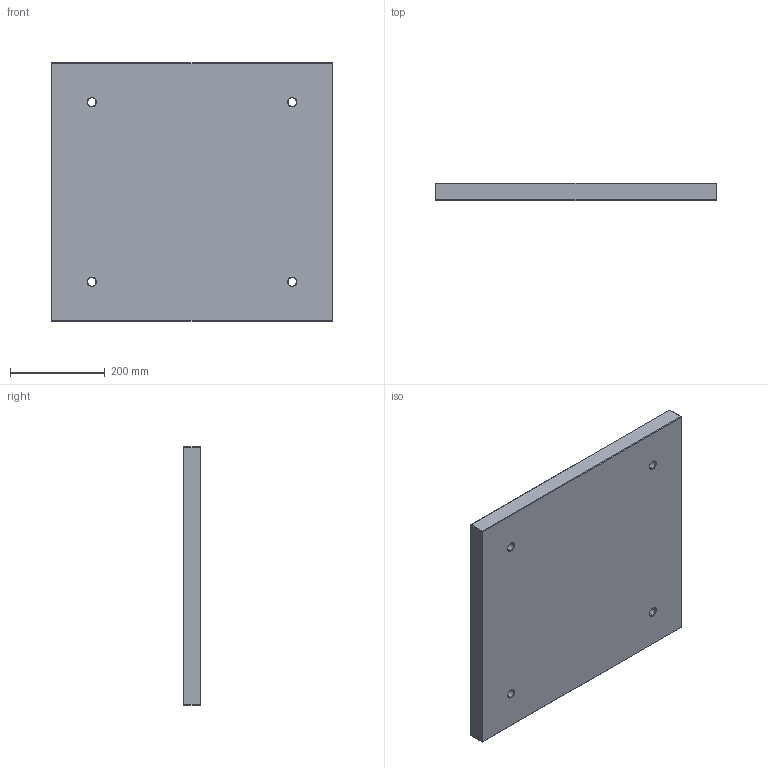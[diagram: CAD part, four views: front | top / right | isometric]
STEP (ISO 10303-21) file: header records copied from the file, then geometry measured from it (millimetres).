
FILE_DESCRIPTION (( 'STEP AP214' ), '1' );
FILE_NAME ('496x546x36.STEP', '2020-03-23T18:48:28', ( 'August' ), ( '' ), 'SwSTEP 2.0', 'SolidWorks 2018', '' );
FILE_SCHEMA (( 'AUTOMOTIVE_DESIGN' ));
Length unit declared in the file: millimetre
Products named in the file (1): 496x546x36
Bounding box: 596 x 36 x 546 mm (x, y, z)
Volume: 11655791.8 mm3; surface area: 737896.1 mm2
Topology: 1 solids, 1 shells, 62 faces, 128 edges, 72 vertices
Faces by surface type: plane 30, cone 16, cylinder 16
Entity records: 1650 total; most frequent: DIRECTION 302, CARTESIAN_POINT 263, ORIENTED_EDGE 256, EDGE_CURVE 128, AXIS2_PLACEMENT_3D 111, VECTOR 80, LINE 80, EDGE_LOOP 74
